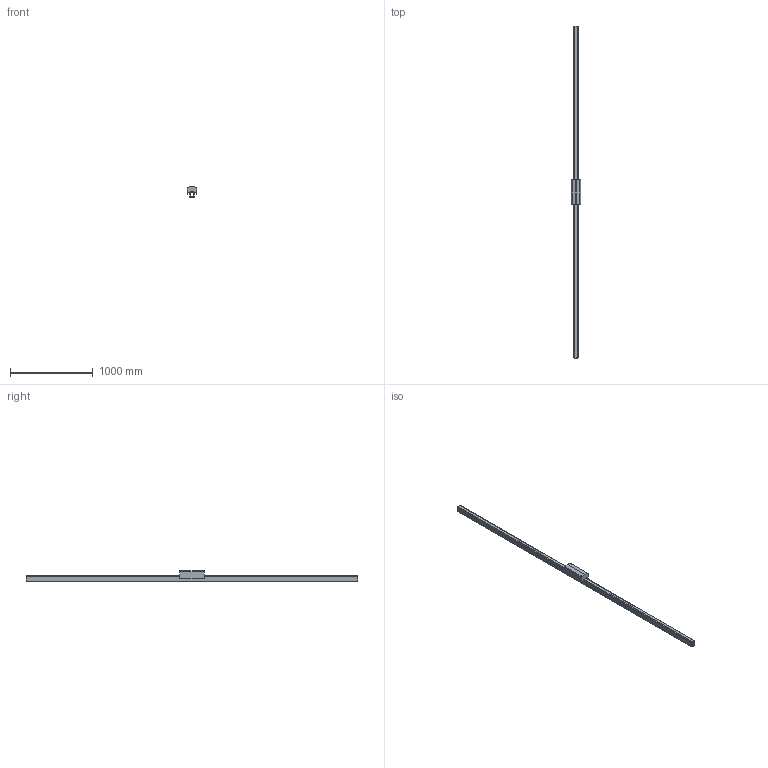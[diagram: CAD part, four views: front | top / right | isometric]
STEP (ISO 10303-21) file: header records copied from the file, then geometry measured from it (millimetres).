
FILE_DESCRIPTION(/* description */ ('Unknown'),/* implementation_level */ '2;1');
FILE_NAME(/* name */ 'MI530x_Elément ventilation 4M_SPL',/* time_stamp */ '2018-08-10T11:23:44+02:00',/* author */ ('Unknown'),/* organization */ ('Unknown'),/* preprocessor_version */ 'ST-DEVELOPER v16.7',/* originating_system */ 'DEX',/* authorisation */ $);
FILE_SCHEMA (('AUTOMOTIVE_DESIGN {1 0 10303 214 3 1 1}'));
Length unit declared in the file: millimetre
Products named in the file (1): MI530x_Elément ventilation 4M_SPL
Bounding box: 109 x 4000 x 130.25 mm (x, y, z)
Volume: 8723808.3 mm3; surface area: 2112318.8 mm2
Topology: 1 solids, 1 shells, 175 faces, 517 edges, 344 vertices
Faces by surface type: plane 107, cylinder 68
Entity records: 7103 total; most frequent: CARTESIAN_POINT 1037, ORIENTED_EDGE 1034, DIRECTION 1007, EDGE_CURVE 517, LINE 379, VECTOR 379, VERTEX_POINT 344, AXIS2_PLACEMENT_3D 314
